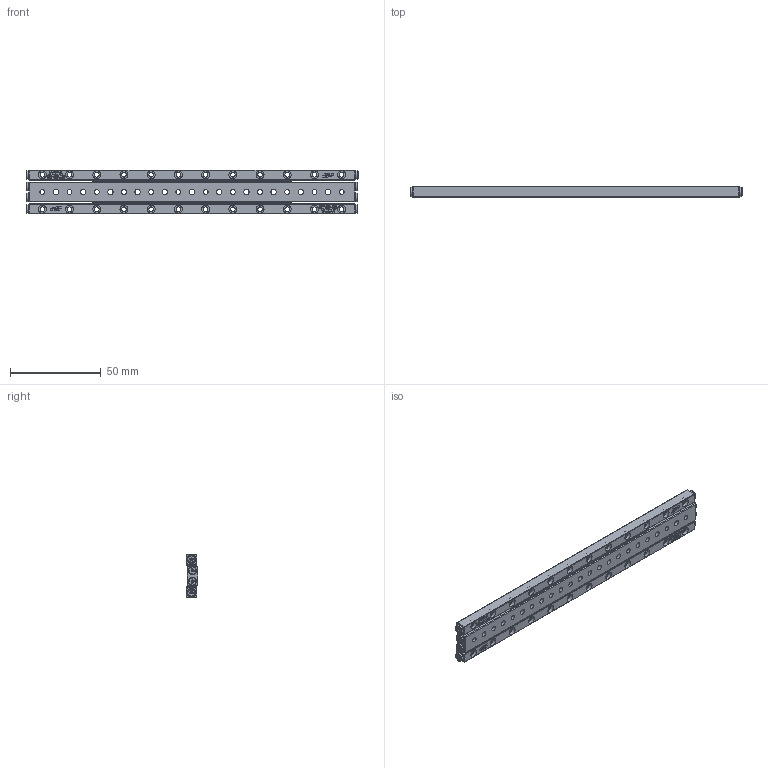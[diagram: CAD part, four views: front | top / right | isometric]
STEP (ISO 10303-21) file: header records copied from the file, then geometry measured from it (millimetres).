
FILE_DESCRIPTION (( 'STEP AP203' ), '1' );
FILE_NAME ('GRD02-180.STEP', '2023-09-14T08:03:43', ( '' ), ( '' ), 'SwSTEP 2.0', 'SolidWorks 2019', '' );
FILE_SCHEMA (( 'CONFIG_CONTROL_DESIGN' ));
Length unit declared in the file: millimetre
Products named in the file (4): GRV02-180-模糊化保持器組; GRD02-180-模糊化中軌; GRV02-180-模糊化軌道; GRD02-180
Assembly tree (5 placements, depth 2):
  GRD02-180
    GRD02-180-模糊化中軌
    GRV02-180-模糊化軌道  x2
    GRV02-180-模糊化保持器組  x2
Bounding box: 183 x 6.5 x 24 mm (x, y, z)
Volume: 21323.2 mm3; surface area: 21070.1 mm2
Topology: 5 solids, 5 shells, 2742 faces, 6982 edges, 4560 vertices
Faces by surface type: plane 1686, cylinder 653, bspline 207, torus 124, cone 72
Full cylindrical faces by diameter (mm): 2.55 x24, 2.7 x12, 3 x11, 4.4 x36, 4.7 x8
Entity records: 55734 total; most frequent: CARTESIAN_POINT 19470, ORIENTED_EDGE 7870, DIRECTION 6516, EDGE_CURVE 3935, VERTEX_POINT 2604, LINE 2332, VECTOR 2332, AXIS2_PLACEMENT_3D 2092
